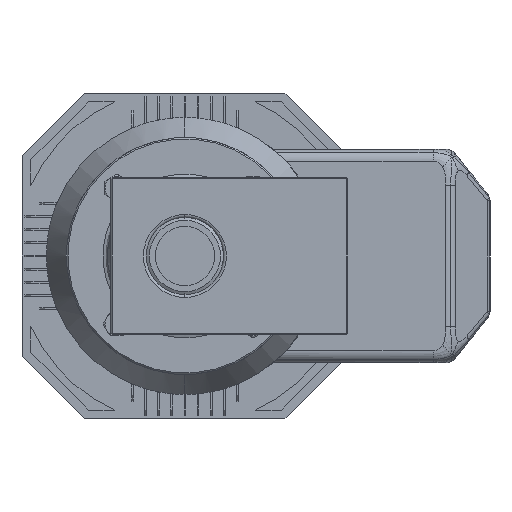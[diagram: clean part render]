
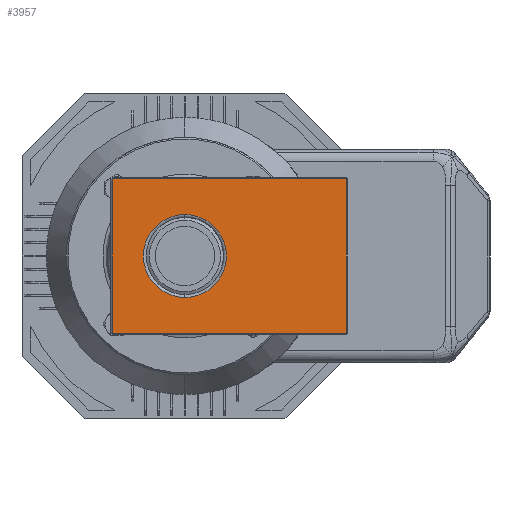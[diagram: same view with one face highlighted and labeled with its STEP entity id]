
A CAD part, left-side view. The second image highlights one B-rep face of the part: STEP entity #3957.
In plain terms, the highlighted planar face has unit normal (-1, 0, 0).
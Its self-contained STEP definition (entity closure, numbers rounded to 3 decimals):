
#849=CARTESIAN_POINT('',(-34.,25.,12.5));
#850=VERTEX_POINT('',#849);
#859=CARTESIAN_POINT('',(-34.,25.,40.5));
#860=VERTEX_POINT('',#859);
#868=CARTESIAN_POINT('',(-34.,25.,26.5));
#869=DIRECTION('',(-1.0,0.0,0.0));
#870=DIRECTION('',(0.0,0.0,-1.0));
#871=AXIS2_PLACEMENT_3D('',#868,#869,#870);
#872=CIRCLE('',#871,14.);
#873=EDGE_CURVE('',#860,#850,#872,.T.);
#3533=CARTESIAN_POINT('',(-34.,-29.5,0.5));
#3534=VERTEX_POINT('',#3533);
#3615=CARTESIAN_POINT('',(-34.,-29.5,52.5));
#3616=VERTEX_POINT('',#3615);
#3637=CARTESIAN_POINT('',(-34.,49.5,0.5));
#3638=VERTEX_POINT('',#3637);
#3695=CARTESIAN_POINT('',(-34.,49.5,52.5));
#3696=VERTEX_POINT('',#3695);
#3750=CARTESIAN_POINT('',(-34.,49.5,0.5));
#3751=DIRECTION('',(0.0,0.0,1.0));
#3752=VECTOR('',#3751,52.);
#3753=LINE('',#3750,#3752);
#3754=EDGE_CURVE('',#3638,#3696,#3753,.T.);
#3765=CARTESIAN_POINT('',(-34.,49.5,52.5));
#3766=DIRECTION('',(0.0,-1.0,0.0));
#3767=VECTOR('',#3766,79.0);
#3768=LINE('',#3765,#3767);
#3769=EDGE_CURVE('',#3696,#3616,#3768,.T.);
#3830=CARTESIAN_POINT('',(-34.,-29.5,0.5));
#3831=DIRECTION('',(0.0,1.0,0.0));
#3832=VECTOR('',#3831,79.0);
#3833=LINE('',#3830,#3832);
#3834=EDGE_CURVE('',#3534,#3638,#3833,.T.);
#3845=CARTESIAN_POINT('',(-34.,-29.5,52.5));
#3846=DIRECTION('',(0.0,0.0,-1.0));
#3847=VECTOR('',#3846,52.);
#3848=LINE('',#3845,#3847);
#3849=EDGE_CURVE('',#3616,#3534,#3848,.T.);
#3936=CARTESIAN_POINT('',(-34.,-30.,0.0));
#3937=DIRECTION('',(-1.0,0.0,0.0));
#3938=DIRECTION('',(0.0,0.0,1.0));
#3939=AXIS2_PLACEMENT_3D('',#3936,#3937,#3938);
#3940=PLANE('',#3939);
#3941=ORIENTED_EDGE('',*,*,#3754,.F.);
#3942=ORIENTED_EDGE('',*,*,#3834,.F.);
#3943=ORIENTED_EDGE('',*,*,#3849,.F.);
#3944=ORIENTED_EDGE('',*,*,#3769,.F.);
#3945=EDGE_LOOP('',(#3941,#3942,#3943,#3944));
#3946=FACE_OUTER_BOUND('',#3945,.T.);
#3947=ORIENTED_EDGE('',*,*,#873,.F.);
#3948=CARTESIAN_POINT('',(-34.,25.,26.5));
#3949=DIRECTION('',(-1.0,0.0,0.0));
#3950=DIRECTION('',(0.0,0.0,-1.0));
#3951=AXIS2_PLACEMENT_3D('',#3948,#3949,#3950);
#3952=CIRCLE('',#3951,14.);
#3953=EDGE_CURVE('',#850,#860,#3952,.T.);
#3954=ORIENTED_EDGE('',*,*,#3953,.F.);
#3955=EDGE_LOOP('',(#3947,#3954));
#3956=FACE_BOUND('',#3955,.T.);
#3957=ADVANCED_FACE('',(#3946,#3956),#3940,.T.);
